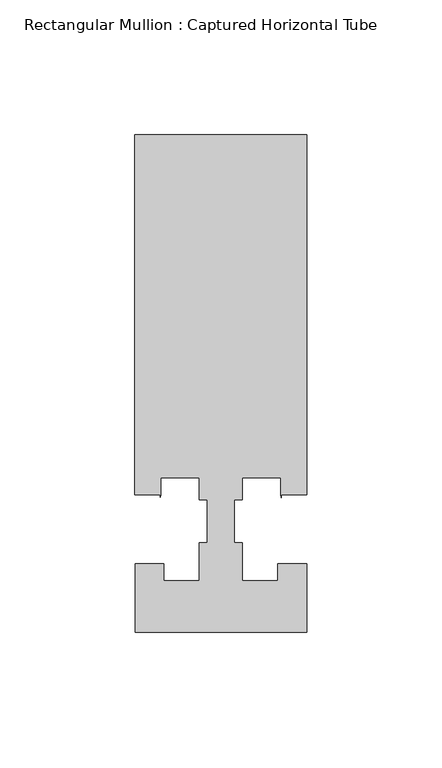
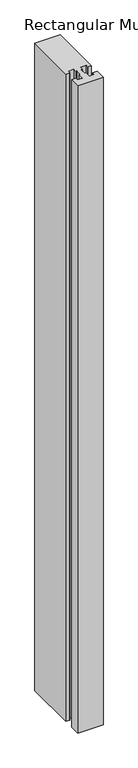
"""IFC4 building model written with IfcOpenShell, lengths in millimetres: member geometry, Rectangular Mullion : Captured Horizontal Tube."""

from ifc_helpers import new_model, si_unit, frame, origin, place, context, project, spatial, polyline, outline, extrude, source, transform, mapped, element, save


def rectangular_mullion_captured_horizontal_tube_73ebac43(model_context):
    return source(origin(), model_context, "Body", "SweptSolid", [
        extrude(outline(polyline([(31.7705663, 114.3), (31.7705663, -18.933673), (22.3913824, -18.933673), (22.3913824, -20.0839351), (22.2251125, -18.933673), (22.2251125, -12.7), (8.0416658, -12.7), (8.0416658, -20.8793999), (4.988785, -20.8793999), (4.988785, -36.6491027), (7.9374472, -36.6491027), (7.9374472, -50.8001709), (21.0845479, -50.8001709), (21.0845479, -44.4245655), (31.7705663, -44.4245655), (31.7705663, -69.8502416), (-31.7294337, -69.8502416), (-31.7294337, -44.4247364), (-21.0270883, -44.4247364), (-21.0270883, -50.8001709), (-7.9375539, -50.8001709), (-7.9375539, -36.6491027), (-4.9639474, -36.6491027), (-4.9639474, -20.8793999), (-7.9375542, -20.8793999), (-7.9375542, -12.7), (-22.2250091, -12.7), (-22.2250091, -18.948961), (-22.4113151, -19.8905485), (-22.4113151, -18.9488461), (-31.75, -18.9488461), (-31.75, 114.3), (31.7705663, 114.3)])), frame((0.0, 0.0, -1704.9898159), z_axis=(0.0, 0.0, 1.0), x_axis=(1.0, 0.0, 0.0)), (0.0, 0.0, 1.0), 1704.9898159),
    ])


if __name__ == "__main__":
    model = new_model("IFC4")
    model_context = context("Model", 3, world=origin())
    ifc_project = project(units=[si_unit("LENGTHUNIT", "METRE", prefix="MILLI")], contexts=[model_context])
    site = spatial("IfcSite", under=ifc_project)
    building = spatial("IfcBuilding", under=site)
    placement = place(None, origin())
    rectangular_mullion_captured_horizontal_tube_shape = rectangular_mullion_captured_horizontal_tube_73ebac43(model_context)
    element("IfcMember", 1, ObjectType="Rectangular Mullion : Captured Horizontal Tube", at=placement, inside=building, context=model_context, shape_type="MappedRepresentation", body=[
        mapped(rectangular_mullion_captured_horizontal_tube_shape, transform((0.0, 0.0, 0.0), x_axis=(1.0, 0.0, 0.0), y_axis=(0.0, 1.0, 0.0), z_axis=(0.0, 0.0, 1.0))),
    ])
    save(model, "model.ifc")
